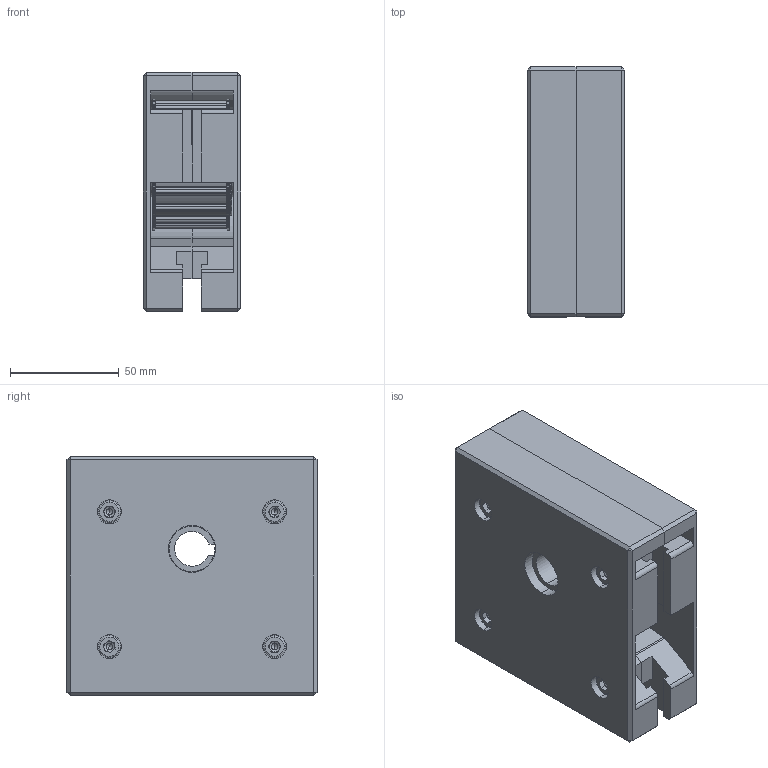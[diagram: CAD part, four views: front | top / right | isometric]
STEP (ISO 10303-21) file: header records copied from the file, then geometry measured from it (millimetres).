
FILE_DESCRIPTION (( 'STEP AP214' ), '1' );
FILE_NAME ('1.8010 Hammashihnan vetopää 45.STEP', '2025-09-18T07:03:20', ( '' ), ( '' ), 'SwSTEP 2.0', 'SolidWorks 2025', '' );
FILE_SCHEMA (( 'AUTOMOTIVE_DESIGN' ));
Length unit declared in the file: millimetre
Products named in the file (1): 1.8010 Hammashihnan vetopää 45
Bounding box: 45 x 115 x 110 mm (x, y, z)
Volume: 397794.9 mm3; surface area: 135038.8 mm2
Topology: 41 solids, 41 shells, 766 faces, 1983 edges, 1209 vertices
Faces by surface type: cylinder 297, plane 265, sphere 120, torus 44, cone 40
Entity records: 31215 total; most frequent: DIRECTION 4152, CARTESIAN_POINT 4101, ORIENTED_EDGE 3590, EDGE_CURVE 1795, AXIS2_PLACEMENT_3D 1688, VERTEX_POINT 1149, CIRCLE 921, EDGE_LOOP 834
